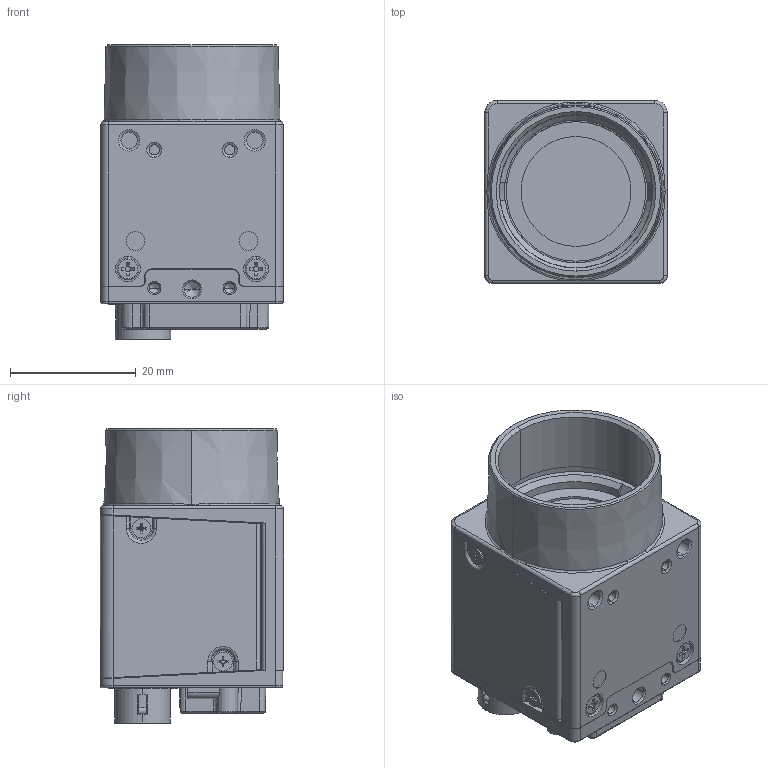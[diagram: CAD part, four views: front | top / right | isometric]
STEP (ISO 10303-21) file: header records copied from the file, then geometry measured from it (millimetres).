
FILE_DESCRIPTION((''),'2;1');
FILE_NAME('DH3-0694-6360_1','2023-11-25T14:08:48',('21511'),(''),'CREO PARAMETRIC BY PTC INC, 2020184','CREO PARAMETRIC BY PTC INC, 2020184','');
FILE_SCHEMA(('CONFIG_CONTROL_DESIGN','SHAPE_APPEARANCE_LAYERS_GROUPS'));
Products named in the file (1): DH3-0694-6360_1
Bounding box: 29 x 29.13 x 46.8 mm (x, y, z)
Volume: 24830.8 mm3; surface area: 11651.5 mm2
Topology: 1 solids, 11 shells, 1515 faces, 4230 edges, 2745 vertices
Faces by surface type: plane 826, cylinder 396, bspline 137, cone 99, torus 40, extrusion 13, sphere 4
Entity records: 69259 total; most frequent: CARTESIAN_POINT 14561, ORIENTED_EDGE 8440, DIRECTION 7536, PRESENTATION_STYLE_ASSIGNMENT 4665, STYLED_ITEM 4227, CURVE_STYLE 4226, EDGE_CURVE 4220, VECTOR 2902
